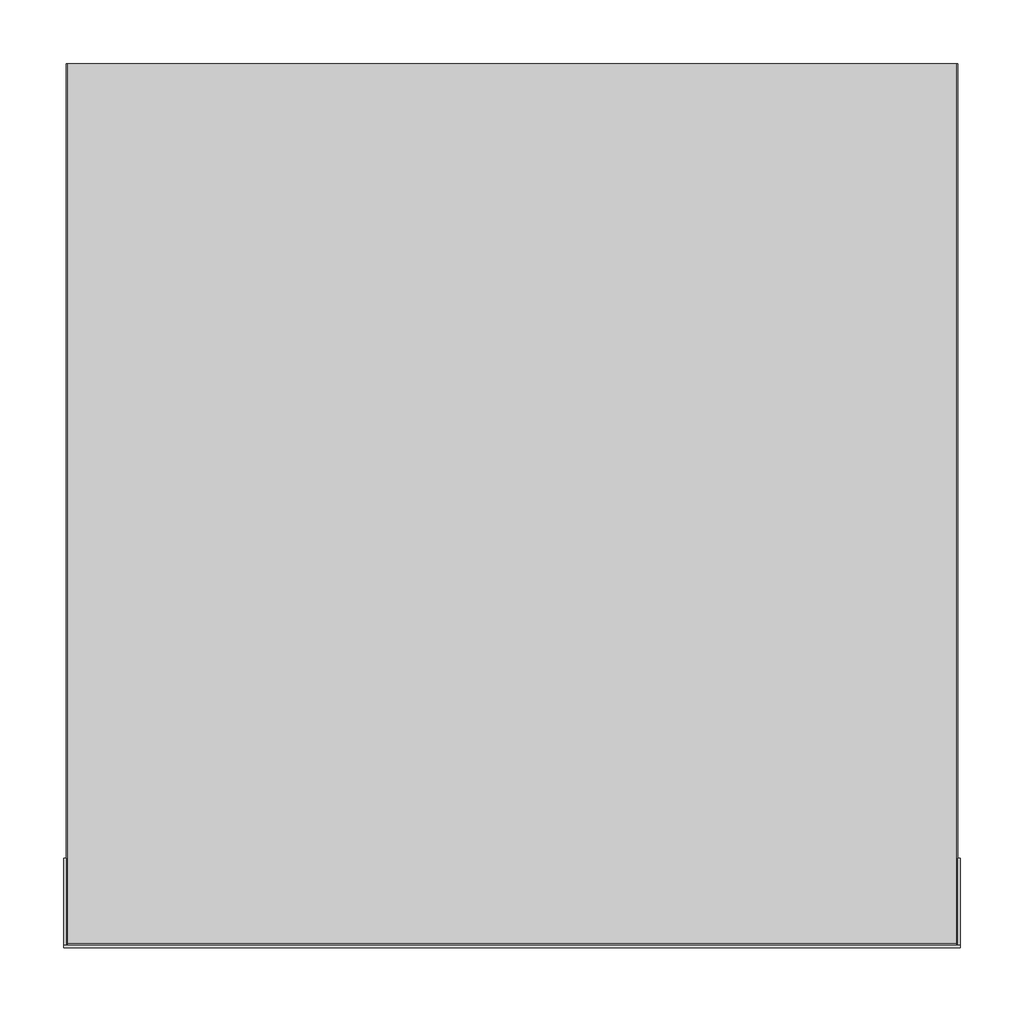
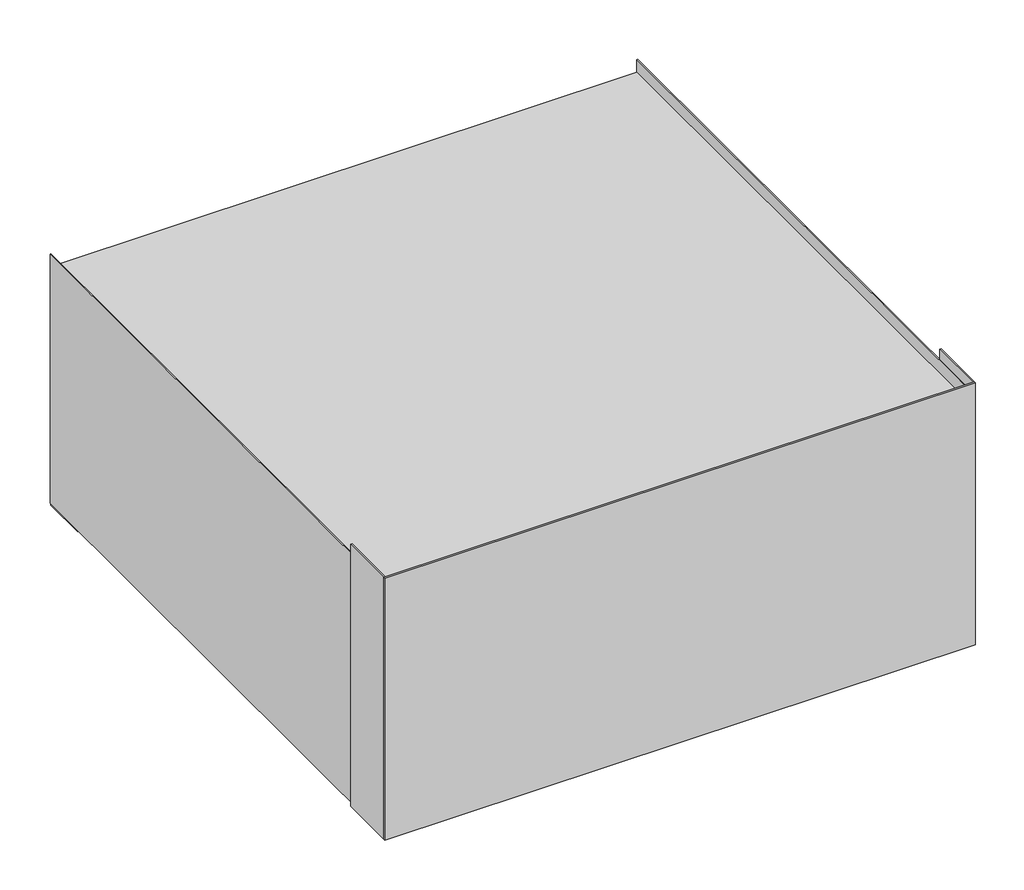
# Not in any storey: 1 proxy.
"""IFC4 building model written with IfcOpenShell, lengths in millimetres."""

import ifcopenshell
import ifcopenshell.guid

model = None  # the IFC model being written
_history = None  # IfcOwnerHistory: only IFC2X3 demands one
_inside = {}  # id of a spatial element -> (the spatial element, [elements in it])
_under = {}  # id of a project, library or spatial element -> (it, [spatial elements below it])
_declared = {}  # id of a project -> (the project, [libraries it declares])
_typed = {}  # id of a type object -> (the type object, [elements of that type])
_made_of = {}  # id of a material, layer set ... -> (it, [elements and type objects made of it])


def new_model(schema):
    """Start an empty IFC model of exactly this schema.

    Asked for "IFC4X3", IfcOpenShell would pick the latest addendum, in which some entities
    have other attributes; the version numbers below select the first issue.
    IFC2X3 requires an IfcOwnerHistory on every rooted entity: one is made here for all.
    """
    global model, _history
    if schema == "IFC4X3":
        model = ifcopenshell.file(schema_version=(4, 3, 0, 0))
    else:
        model = ifcopenshell.file(schema=schema)
    _inside.clear()
    _under.clear()
    _declared.clear()
    _typed.clear()
    _made_of.clear()
    _history = None
    if model.schema == "IFC2X3":
        org = make("IfcOrganization", Name="unknown")
        user = make(
            "IfcPersonAndOrganization",
            ThePerson=make("IfcPerson", FamilyName="unknown"),
            TheOrganization=org,
        )
        app = make(
            "IfcApplication",
            ApplicationDeveloper=org,
            Version="unknown",
            ApplicationFullName="unknown",
            ApplicationIdentifier="unknown",
        )
        _history = make(
            "IfcOwnerHistory",
            OwningUser=user,
            OwningApplication=app,
            ChangeAction="ADDED",
            CreationDate=0,
        )
    return model


def make(cls, **values):
    """One entity of the class cls with the attributes given. An attribute that is None is left unset."""
    return model.create_entity(
        cls, **{name: value for name, value in values.items() if value is not None}
    )


def rooted(cls, **values):
    """An entity with a GlobalId (a new one), such as an element, a storey or a relation."""
    return make(cls, GlobalId=ifcopenshell.guid.new(), OwnerHistory=_history, **values)


def si_unit(unit_type, name, prefix=None):
    """IfcSIUnit, for example si_unit("LENGTHUNIT", "METRE", prefix="MILLI")."""
    return make("IfcSIUnit", UnitType=unit_type, Prefix=prefix, Name=name)


def assignment(units):
    """IfcUnitAssignment: the units of a project."""
    return None if units is None else make("IfcUnitAssignment", Units=units)


def point(xyz):
    """IfcCartesianPoint."""
    return None if xyz is None else make("IfcCartesianPoint", Coordinates=xyz)


def direction(xyz):
    """IfcDirection."""
    return None if xyz is None else make("IfcDirection", DirectionRatios=xyz)


def frame(location, z_axis=None, x_axis=None):
    """IfcAxis2Placement3D, a coordinate frame: its origin and axes. An axis left out is left unset."""
    return make(
        "IfcAxis2Placement3D",
        Location=point(location),
        Axis=direction(z_axis),
        RefDirection=direction(x_axis),
    )


def frame_2d(location, x_axis=None):
    """IfcAxis2Placement2D, a coordinate frame in the plane: its origin and x axis."""
    return make(
        "IfcAxis2Placement2D", Location=point(location), RefDirection=direction(x_axis)
    )


def origin():
    """The frame at (0, 0, 0) with its axes left unset."""
    return frame((0.0, 0.0, 0.0))


def origin_with_axes():
    """The frame at (0, 0, 0) with the z axis (0, 0, 1) and the x axis (1, 0, 0) written out."""
    return frame((0.0, 0.0, 0.0), z_axis=(0.0, 0.0, 1.0), x_axis=(1.0, 0.0, 0.0))


def place(relative_to, where):
    """IfcLocalPlacement: puts the frame where relative to a parent placement (None: the world)."""
    return make(
        "IfcLocalPlacement", PlacementRelTo=relative_to, RelativePlacement=where
    )


def context(
    kind, dimensions, precision=None, world=None, true_north=None, identifier=None
):
    """IfcGeometricRepresentationContext, for example the 3D "Model" context."""
    return make(
        "IfcGeometricRepresentationContext",
        ContextIdentifier=identifier,
        ContextType=kind,
        CoordinateSpaceDimension=dimensions,
        Precision=precision,
        WorldCoordinateSystem=world,
        TrueNorth=true_north,
    )


def project(units=None, contexts=None):
    """IfcProject with its units and contexts."""
    return rooted(
        "IfcProject",
        Name="project",
        RepresentationContexts=contexts,
        UnitsInContext=assignment(units),
    )


def spatial(cls, under=None, at=None, **own):
    """A site, building, storey or space (cls), placed at a placement, below another one or the project."""
    s = rooted(cls, ObjectPlacement=at, **own)
    if under is not None:
        _under.setdefault(under.id(), (under, []))[1].append(s)
    return s


def polyline(points):
    """IfcPolyline through the points."""
    return make("IfcPolyline", Points=[point(p) for p in points])


def circle_curve(where, radius):
    """IfcCircle in the frame where."""
    return make("IfcCircle", Position=where, Radius=radius)


def trimmed(basis, trim1, trim2, sense, master):
    """IfcTrimmedCurve: the piece of a basis curve between two trims."""
    return make(
        "IfcTrimmedCurve",
        BasisCurve=basis,
        Trim1=trim1,
        Trim2=trim2,
        SenseAgreement=sense,
        MasterRepresentation=master,
    )


def segment(curve, same_sense, transition):
    """IfcCompositeCurveSegment."""
    return make(
        "IfcCompositeCurveSegment",
        Transition=transition,
        SameSense=same_sense,
        ParentCurve=curve,
    )


def composite_curve(segments, self_intersect=None):
    """IfcCompositeCurve: segments joined end to end."""
    return make("IfcCompositeCurve", Segments=segments, SelfIntersect=self_intersect)


def outline(outer, holes=None, kind="AREA"):
    """IfcArbitraryClosedProfileDef: a profile drawn as a closed curve; with holes, ...WithVoids."""
    if holes is None:
        return make("IfcArbitraryClosedProfileDef", ProfileType=kind, OuterCurve=outer)
    return make(
        "IfcArbitraryProfileDefWithVoids",
        ProfileType=kind,
        OuterCurve=outer,
        InnerCurves=holes,
    )


def extrude(swept, where, along, depth):
    """IfcExtrudedAreaSolid: the profile swept, set in the frame where, extruded along a direction by depth."""
    return make(
        "IfcExtrudedAreaSolid",
        SweptArea=swept,
        Position=where,
        ExtrudedDirection=direction(along),
        Depth=depth,
    )


def faces_of(points, faces, orient=None, outer=None):
    """IfcFace entities. A face is a list of loops; a loop is a list of indices into points, from 0.

    orient and outer hold one flag for each loop. By default every Orientation is true, the
    first loop of a face is its IfcFaceOuterBound and the others are IfcFaceBound.
    """
    made = []
    for i, loops in enumerate(faces):
        bounds = []
        for j, loop in enumerate(loops):
            is_outer = j == 0 if outer is None else outer[i][j]
            bounds.append(
                make(
                    "IfcFaceOuterBound" if is_outer else "IfcFaceBound",
                    Bound=make("IfcPolyLoop", Polygon=[points[k] for k in loop]),
                    Orientation=True if orient is None else orient[i][j],
                )
            )
        made.append(make("IfcFace", Bounds=bounds))
    return made


def faceted_brep(points, faces, orient=None, outer=None, voids=None):
    """IfcFacetedBrep: a solid bounded by flat faces; with voids (closed shells), ...WithVoids."""
    shared = [point(p) for p in points]
    hull = make("IfcClosedShell", CfsFaces=faces_of(shared, faces, orient, outer))
    if voids is None:
        return make("IfcFacetedBrep", Outer=hull)
    return make(
        "IfcFacetedBrepWithVoids",
        Outer=hull,
        Voids=[
            make(cls, CfsFaces=faces_of(shared, fs, o, b)) for cls, fs, o, b in voids
        ],
    )


def shape(context_of_items, identifier, shape_type, items):
    """IfcShapeRepresentation: the items that make up one representation, for example the "Body"."""
    return make(
        "IfcShapeRepresentation",
        ContextOfItems=context_of_items,
        RepresentationIdentifier=identifier,
        RepresentationType=shape_type,
        Items=items,
    )


def source(mapping_origin, context_of_items, identifier, shape_type, items):
    """IfcRepresentationMap: a shape defined once, which mapped items show again and again."""
    return make(
        "IfcRepresentationMap",
        MappingOrigin=mapping_origin,
        MappedRepresentation=shape(context_of_items, identifier, shape_type, items),
    )


def transform(
    local_origin,
    x_axis=None,
    y_axis=None,
    z_axis=None,
    scale=None,
    scale2=None,
    scale3=None,
    uniform=True,
):
    """IfcCartesianTransformationOperator3D, or its non-uniform kind. x_axis, y_axis, z_axis: its Axis1, 2, 3."""
    if uniform:
        return make(
            "IfcCartesianTransformationOperator3D",
            Axis1=direction(x_axis),
            Axis2=direction(y_axis),
            LocalOrigin=point(local_origin),
            Scale=scale,
            Axis3=direction(z_axis),
        )
    return make(
        "IfcCartesianTransformationOperator3DnonUniform",
        Axis1=direction(x_axis),
        Axis2=direction(y_axis),
        LocalOrigin=point(local_origin),
        Scale=scale,
        Axis3=direction(z_axis),
        Scale2=scale2,
        Scale3=scale3,
    )


def mapped(mapping_source, mapping_target):
    """IfcMappedItem: shows the shape of a source again, moved by a transform."""
    return make(
        "IfcMappedItem", MappingSource=mapping_source, MappingTarget=mapping_target
    )


def made_of(thing, what):
    """Note that an element or type object is made of a material, layer set ...; save() writes the relation."""
    if what is not None:
        _made_of.setdefault(what.id(), (what, []))[1].append(thing)
    return thing


def element(
    cls,
    number,
    at=None,
    inside=None,
    cuts=None,
    type_object=None,
    material=None,
    context=None,
    identifier="Body",
    shape_type=None,
    held_by="IfcProductDefinitionShape",
    body=None,
    shapes=None,
    **own,
):
    """One element of the class cls, such as IfcWall. Its Tag is "e" and its number.

    at: its placement. inside: the storey or other place that contains it. cuts: it is an
    opening in that element (IfcRelVoidsElement). A single representation is given by context,
    identifier, shape_type and body (its items); several are given by shapes. held_by: the class
    of the entity that holds the representations. save() writes the other relations.
    """
    e = rooted(cls, Tag="e%d" % number, ObjectPlacement=at, **own)
    if body is not None:
        shapes = [shape(context, identifier, shape_type, body)]
    if shapes is not None:
        e.Representation = make(held_by, Representations=shapes)
    if inside is not None:
        _inside.setdefault(inside.id(), (inside, []))[1].append(e)
    if cuts is not None:
        rooted(
            "IfcRelVoidsElement", RelatingBuildingElement=cuts, RelatedOpeningElement=e
        )
    if type_object is not None:
        _typed.setdefault(type_object.id(), (type_object, []))[1].append(e)
    return made_of(e, material)


def aggregate(whole, parts):
    """IfcRelAggregates: a whole, such as a stair, and the parts it consists of."""
    return rooted("IfcRelAggregates", RelatingObject=whole, RelatedObjects=parts)


def save(model, path):
    """Write the relations noted so far, then the file.

    IfcRelAggregates (storeys below a building ...), IfcRelContainedInSpatialStructure (elements
    in a storey), IfcRelDefinesByType, IfcRelAssociatesMaterial and IfcRelDeclares: one each for
    every whole, place, type object, material and project.
    """
    for whole, parts in _under.values():
        aggregate(whole, parts)
    for where, things in _inside.values():
        rooted(
            "IfcRelContainedInSpatialStructure",
            RelatedElements=things,
            RelatingStructure=where,
        )
    for kind, things in _typed.values():
        rooted("IfcRelDefinesByType", RelatedObjects=things, RelatingType=kind)
    for what, things in _made_of.values():
        rooted("IfcRelAssociatesMaterial", RelatedObjects=things, RelatingMaterial=what)
    for by, libraries in _declared.values():
        rooted("IfcRelDeclares", RelatingContext=by, RelatedDefinitions=libraries)
    model.write(path)


def specialty_equipment_45dbf545(model_context):
    return source(origin(), model_context, "Body", "SolidModel", [
        extrude(outline(polyline([(-345.65, -54.9545854), (-345.65, -2.0), (-293.150057, -2.0), (-293.150057, -54.9545854), (-345.65, -54.9545854)]), holes=[composite_curve([segment(trimmed(circle_curve(frame_2d((-316.8980495, -29.501979)), 7.0), [point((-323.8980495, -29.501979))], [point((-309.8980495, -29.501979))], True, "CARTESIAN"), True, "CONTINUOUS"), segment(trimmed(circle_curve(frame_2d((-316.8980495, -29.501979)), 7.0), [point((-309.8980495, -29.501979))], [point((-323.8980495, -29.501979))], True, "CARTESIAN"), True, "CONTINUOUS")], self_intersect=False)]), origin_with_axes(), (0.0, 0.0, 1.0), 3.0000568),
        extrude(outline(polyline([(345.65, -633.2454146), (345.65, -686.2), (291.65, -686.2), (291.65, -633.2454146), (345.65, -633.2454146)]), holes=[composite_curve([segment(trimmed(circle_curve(frame_2d((317.0263561, -659.5584791)), 7.0), [point((324.0263561, -659.5584791))], [point((310.0263561, -659.5584791))], True, "CARTESIAN"), True, "CONTINUOUS"), segment(trimmed(circle_curve(frame_2d((317.0263561, -659.5584791)), 7.0), [point((310.0263561, -659.5584791))], [point((324.0263561, -659.5584791))], True, "CARTESIAN"), True, "CONTINUOUS")], self_intersect=False)]), origin_with_axes(), (0.0, 0.0, 1.0), 3.0000568),
        extrude(outline(polyline([(-345.65, -633.2454146), (-291.65, -633.2454146), (-291.65, -686.2), (-345.65, -686.2), (-345.65, -633.2454146)]), holes=[composite_curve([segment(trimmed(circle_curve(frame_2d((-317.0263561, -659.5584791)), 7.0), [point((-324.0263561, -659.5584791))], [point((-310.0263561, -659.5584791))], True, "CARTESIAN"), True, "CONTINUOUS"), segment(trimmed(circle_curve(frame_2d((-317.0263561, -659.5584791)), 7.0), [point((-310.0263561, -659.5584791))], [point((-324.0263561, -659.5584791))], True, "CARTESIAN"), True, "CONTINUOUS")], self_intersect=False)]), origin_with_axes(), (0.0, 0.0, 1.0), 3.0000568),
        faceted_brep([(-347.9787048, -560.2000122, 255.0000529), (-347.9787048, -688.2, 255.0000529), (-217.5212799, -688.2, 255.0000529), (-217.5212799, -686.2, 255.0000529), (-345.9787048, -686.2, 255.0000529), (-345.9787048, -560.2000122, 255.0000529), (-345.9787048, -686.2, 0.0), (-291.5212646, -686.2, 0.0), (-291.5212646, -688.2, 0.0), (-347.9787048, -688.2, 0.0), (-347.9787048, -634.012736, 0.0), (-345.9787048, -634.012736, 0.0), (-347.9787048, -634.012736, 6.0002128), (-291.5212646, -688.2, 5.360683), (-291.5212646, -686.2, 5.360683), (-345.9787048, -634.012736, 6.0002128)], [[[0, 1, 2, 3, 4, 5]], [[6, 7, 8, 9, 10, 11]], [[1, 0, 12, 10, 9]], [[2, 1, 9, 8, 13]], [[4, 3, 14, 7, 6]], [[5, 4, 6, 11, 15]], [[14, 13, 8, 7]], [[13, 14, 3, 2]], [[15, 12, 0, 5]], [[12, 15, 11, 10]]]),
        faceted_brep([(345.9787048, -560.2000122, 255.0000529), (345.9787048, -686.2, 255.0000529), (217.5212799, -686.2, 255.0000529), (217.5212799, -688.2, 255.0000529), (347.9787048, -688.2, 255.0000529), (347.9787048, -560.2000122, 255.0000529), (347.9787048, -688.2, 0.0), (291.4787048, -688.2, 0.0), (291.4787048, -686.2, 0.0), (345.9787048, -686.2, 0.0), (345.9787048, -634.012736, 0.0), (347.9787048, -634.012736, 0.0), (347.9787048, -634.012736, 6.0002128), (291.4787048, -688.2, 4.5000568), (291.4787048, -686.2, 4.5000568), (345.9787048, -634.012736, 6.0002128)], [[[0, 1, 2, 3, 4, 5]], [[6, 7, 8, 9, 10, 11]], [[5, 4, 6, 11, 12]], [[4, 3, 13, 7, 6]], [[2, 1, 9, 8, 14]], [[1, 0, 15, 10, 9]], [[13, 14, 8, 7]], [[14, 13, 3, 2]], [[12, 15, 0, 5]], [[15, 12, 11, 10]]]),
        extrude(outline(polyline([(-347.9787048, -688.2), (-347.9787048, 0.0), (347.9787048, 0.0), (347.9787048, -688.2), (-347.9787048, -688.2)])), frame((0.0, 0.0, 255.0000529), z_axis=(0.0, 0.0, 1.0), x_axis=(1.0, 0.0, 0.0)), (0.0, 0.0, 1.0), 44.9999986),
        extrude(outline(polyline([(350.65, -689.7), (350.65, -691.7), (-350.65, -691.7), (-350.65, -689.7), (350.65, -689.7)])), origin_with_axes(), (0.0, 0.0, 1.0), 329.0),
        faceted_brep([(347.9787048, -127.9999878, 255.0000529), (347.9787048, 0.0, 255.0000529), (217.5212799, 0.0, 255.0000529), (217.5212799, -2.0, 255.0000529), (345.9787048, -2.0, 255.0000529), (345.9787048, -127.9999878, 255.0000529), (345.9787048, -2.0, 0.0), (291.4787048, -2.0, 0.0), (291.4787048, 0.0, 0.0), (347.9787048, 0.0, 0.0), (347.9787048, -54.9545854, 0.0), (345.9787048, -54.9545854, 0.0), (347.9787048, -127.9999878, 251.1747163), (347.9787048, -54.9545854, 3.7638167), (291.4787048, 0.0, 4.5000568), (291.4787048, -2.0, 4.5000568), (345.9787048, -54.9545854, 3.7638167), (345.9787048, -127.9999878, 251.1747163)], [[[0, 1, 2, 3, 4, 5]], [[6, 7, 8, 9, 10, 11]], [[1, 0, 12, 13, 10, 9]], [[1, 9, 8, 14, 2]], [[6, 4, 3, 15, 7]], [[5, 4, 6, 11, 16, 17]], [[0, 5, 17, 12]], [[15, 14, 8, 7]], [[14, 15, 3, 2]], [[13, 16, 11, 10]], [[16, 13, 12, 17]]]),
        faceted_brep([(-347.9787048, -127.9999878, 255.0000529), (-345.9787048, -127.9999878, 255.0000529), (-345.9787048, -2.0, 255.0000529), (-217.5212799, -2.0, 255.0000529), (-217.5212799, 0.0, 255.0000529), (-347.9787048, 0.0, 255.0000529), (-347.9787048, 0.0, 0.0), (-291.5212646, 0.0, 0.0), (-291.5212646, -2.0, 0.0), (-345.9787048, -2.0, 0.0), (-345.9787048, -54.9545854, 0.0), (-347.9787048, -54.9545854, 0.0), (-347.9787048, -54.9545854, 3.7638167), (-347.9787048, -127.9999878, 251.1747163), (-291.5212646, 0.0, 5.360683), (-291.5212646, -2.0, 5.360683), (-345.9787048, -127.9999878, 251.1747163), (-345.9787048, -54.9545854, 3.7638167)], [[[0, 1, 2, 3, 4, 5]], [[6, 7, 8, 9, 10, 11]], [[0, 5, 6, 11, 12, 13]], [[6, 5, 4, 14, 7]], [[2, 9, 8, 15, 3]], [[2, 1, 16, 17, 10, 9]], [[1, 0, 13, 16]], [[14, 15, 8, 7]], [[15, 14, 4, 3]], [[17, 12, 11, 10]], [[12, 17, 16, 13]]]),
        extrude(outline(polyline([(348.9787048, -689.7), (348.9787048, -621.7872741), (350.65, -621.7872741), (350.65, -689.7), (348.9787048, -689.7)])), origin_with_axes(), (0.0, 0.0, 1.0), 329.0),
        extrude(outline(polyline([(-348.9787048, -621.7872741), (-348.9787048, -689.7), (-350.65, -689.7), (-350.65, -621.7872741), (-348.9787048, -621.7872741)])), origin_with_axes(), (0.0, 0.0, 1.0), 329.0),
        extrude(outline(polyline([(348.9787048, -689.7), (347.9787048, -689.7), (347.9787048, 0.0), (348.9787048, 0.0), (348.9787048, -689.7)])), frame((0.0, 0.0, 3.0000568), z_axis=(0.0, 0.0, 1.0), x_axis=(1.0, 0.0, 0.0)), (0.0, 0.0, 1.0), 312.9999432),
        extrude(outline(polyline([(0.0, -1.0), (0.0, 0.0), (689.7, 0.0), (689.7, -1.0), (0.0, -1.0)])), frame((-348.9787048, -689.7, 3.0000568), z_axis=(-2.2841728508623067e-12, 0.0, 1.0), x_axis=(0.0, 1.0, 0.0)), (0.0, 0.0, 1.0), 312.9999432),
        extrude(outline(polyline([(-320.4297166, -34.501979), (-320.4297166, -24.456348), (-316.5963863, -24.456348), (-314.7189618, -24.7518799), (-313.6104107, -25.6605484), (-313.2094194, -26.9456828), (-313.5466445, -28.1192264), (-314.5656776, -29.0082745), (-313.3283679, -29.9451473), (-312.8954934, -31.5074196), (-313.1910253, -32.8575465), (-313.9231104, -33.8189448), (-315.01572, -34.3290745), (-316.6258168, -34.501979), (-320.4297166, -34.501979)]), holes=[polyline([(-319.1740128, -28.5373856), (-316.8808817, -28.5373856), (-315.5417912, -28.4294735), (-314.7361296, -27.9647159), (-314.4651232, -27.1467916), (-314.7177355, -26.3276411), (-315.4412368, -25.8432631), (-317.0550125, -25.7120519), (-319.1740128, -25.7120519), (-319.1740128, -28.5373856)]), polyline([(-319.1740128, -33.2462751), (-316.5988388, -33.2462751), (-315.6668711, -33.1972242), (-314.8783773, -32.9237652), (-314.1511973, -31.5196823), (-314.3915468, -30.5435687), (-315.1702304, -29.9610889), (-316.7214661, -29.7930895), (-319.1740128, -29.7930895), (-319.1740128, -33.2462751)])]), origin_with_axes(), (0.0, 0.0, 1.0), 1.0),
        extrude(outline(polyline([(313.7245194, -664.5553509), (313.7245194, -654.5097198), (317.5578498, -654.5097198), (319.4352742, -654.8052517), (320.5438253, -655.7139202), (320.9448167, -656.9990547), (320.6075915, -658.1725982), (319.5885584, -659.0616464), (320.8258682, -659.9985192), (321.2587427, -661.5607914), (320.9632108, -662.9109183), (320.2311256, -663.8723166), (319.1385161, -664.3824463), (317.5284192, -664.5553509), (313.7245194, -664.5553509)]), holes=[polyline([(314.9802233, -658.5907574), (317.2733544, -658.5907574), (318.6124448, -658.4828454), (319.4181064, -658.0180878), (319.6891128, -657.2001635), (319.4365005, -656.3810129), (318.7129993, -655.896635), (317.0992236, -655.7654237), (314.9802233, -655.7654237), (314.9802233, -658.5907574)]), polyline([(314.9802233, -663.299647), (317.5553972, -663.299647), (318.487365, -663.250596), (319.2758587, -662.9771371), (320.0030388, -661.5730541), (319.7626892, -660.5969406), (318.9840057, -660.0144608), (317.4327699, -659.8464613), (314.9802233, -659.8464613), (314.9802233, -663.299647)])]), frame((0.0, 0.0, -1.0), z_axis=(0.0, 0.0, 1.0), x_axis=(1.0, 0.0, 0.0)), (0.0, 0.0, 1.0), 1.0),
        extrude(outline(polyline([(313.3663823, -34.501979), (313.3663823, -24.456348), (317.1997127, -24.456348), (319.0771372, -24.7518799), (320.1856883, -25.6605484), (320.5866796, -26.9456828), (320.2494545, -28.1192264), (319.2304213, -29.0082745), (320.4677311, -29.9451473), (320.9006056, -31.5074196), (320.6050737, -32.8575465), (319.8729886, -33.8189448), (318.780379, -34.3290745), (317.1702822, -34.501979), (313.3663823, -34.501979)]), holes=[polyline([(314.6220862, -28.5373856), (316.9152173, -28.5373856), (318.2543078, -28.4294735), (319.0599694, -27.9647159), (319.3309758, -27.1467916), (319.0783635, -26.3276411), (318.3548622, -25.8432631), (316.7410865, -25.7120519), (314.6220862, -25.7120519), (314.6220862, -28.5373856)]), polyline([(314.6220862, -33.2462751), (317.1972602, -33.2462751), (318.1292279, -33.1972242), (318.9177216, -32.9237652), (319.6449017, -31.5196823), (319.4045522, -30.5435687), (318.6258686, -29.9610889), (317.0746329, -29.7930895), (314.6220862, -29.7930895), (314.6220862, -33.2462751)])]), frame((0.0, 0.0, -1.0), z_axis=(0.0, 0.0, 1.0), x_axis=(1.0, 0.0, 0.0)), (0.0, 0.0, 1.0), 1.0),
        extrude(outline(polyline([(-319.9744593, -665.0420165), (-319.9744593, -654.9963855), (-316.1411289, -654.9963855), (-314.2637045, -655.2919174), (-313.1551534, -656.2005859), (-312.754162, -657.4857203), (-313.0913872, -658.6592639), (-314.1104203, -659.5483121), (-312.8731105, -660.4851849), (-312.440236, -662.0474571), (-312.7357679, -663.397584), (-313.4678531, -664.3589823), (-314.5604626, -664.869112), (-316.1705595, -665.0420165), (-319.9744593, -665.0420165)]), holes=[polyline([(-318.7187554, -659.0774231), (-316.4256243, -659.0774231), (-315.0865339, -658.9695111), (-314.2808723, -658.5047535), (-314.0098659, -657.6868292), (-314.2624782, -656.8676786), (-314.9859794, -656.3833006), (-316.5997551, -656.2520894), (-318.7187554, -656.2520894), (-318.7187554, -659.0774231)]), polyline([(-318.7187554, -663.7863127), (-316.1435815, -663.7863127), (-315.2116137, -663.7372617), (-314.42312, -663.4638028), (-313.6959399, -662.0597198), (-313.9362895, -661.0836063), (-314.714973, -660.5011264), (-316.2662088, -660.333127), (-318.7187554, -660.333127), (-318.7187554, -663.7863127)])]), frame((0.0, 0.0, -1.0), z_axis=(0.0, 0.0, 1.0), x_axis=(1.0, 0.0, 0.0)), (0.0, 0.0, 1.0), 1.0),
        extrude(outline(polyline([(345.65, -54.9545854), (293.150057, -54.9545854), (293.150057, -2.0), (345.65, -2.0), (345.65, -54.9545854)]), holes=[composite_curve([segment(trimmed(circle_curve(frame_2d((316.8980495, -29.501979)), 7.0), [point((323.8980495, -29.501979))], [point((309.8980495, -29.501979))], True, "CARTESIAN"), True, "CONTINUOUS"), segment(trimmed(circle_curve(frame_2d((316.8980495, -29.501979)), 7.0), [point((309.8980495, -29.501979))], [point((323.8980495, -29.501979))], True, "CARTESIAN"), True, "CONTINUOUS")], self_intersect=False)]), origin_with_axes(), (0.0, 0.0, 1.0), 3.0000568),
    ])


model = new_model("IFC4")

# Units and contexts
model_context = context("Model", 3, world=origin())
ifc_project = project(units=[si_unit("LENGTHUNIT", "METRE", prefix="MILLI")], contexts=[model_context])

# Site, building
site = spatial("IfcSite", under=ifc_project)
building = spatial("IfcBuilding", under=site)

# Proxy
placement = place(None, origin())
specialty_equipment_shape = specialty_equipment_45dbf545(model_context)
element("IfcBuildingElementProxy", 1, Name="11792160_EU_APCL054_SST : 59590054_EU_11792160_APCL054_SST", ObjectType="11792160_EU_APCL054_SST : 59590054_EU_11792160_APCL054_SST", at=placement, inside=building, context=model_context, shape_type="MappedRepresentation", body=[
    mapped(specialty_equipment_shape, transform((0.0, 0.0, 0.0), x_axis=(1.0, 0.0, 0.0), y_axis=(0.0, 1.0, 0.0), z_axis=(0.0, 0.0, 1.0))),
])

save(model, "model.ifc")
